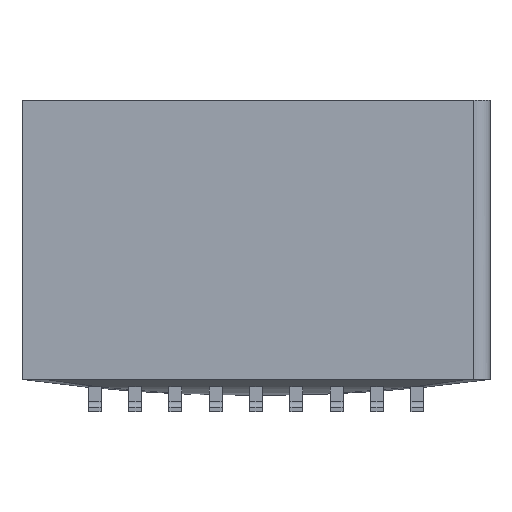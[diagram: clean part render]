
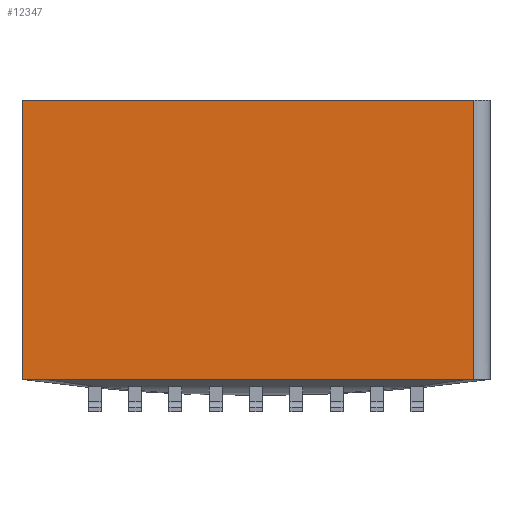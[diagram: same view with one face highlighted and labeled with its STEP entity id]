
A CAD part, front view. The second image highlights one B-rep face of the part: STEP entity #12347.
In plain terms, the highlighted planar face has unit normal (0, -1, 0).
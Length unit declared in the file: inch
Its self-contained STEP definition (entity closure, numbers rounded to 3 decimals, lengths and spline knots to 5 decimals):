
#8 = PLANE ( 'NONE',  #12403 ) ;
#554 = EDGE_CURVE ( 'NONE', #9514, #1584, #16755, .T. ) ;
#1131 = EDGE_CURVE ( 'NONE', #2764, #1584, #9415, .T. ) ;
#1363 = DIRECTION ( 'NONE',  ( 0., 0., -1. ) ) ;
#1584 = VERTEX_POINT ( 'NONE', #10406 ) ;
#1620 = DIRECTION ( 'NONE',  ( 0., 0., 1. ) ) ;
#1621 = EDGE_LOOP ( 'NONE', ( #15905, #13892, #14626, #7349 ) ) ;
#2764 = VERTEX_POINT ( 'NONE', #4311 ) ;
#2974 = CARTESIAN_POINT ( 'NONE',  ( -0.145, -0.035, -0.0865 ) ) ;
#3688 = VECTOR ( 'NONE', #7194, 39.37008 ) ;
#4311 = CARTESIAN_POINT ( 'NONE',  ( 0.135, -0.035, -0.0865 ) ) ;
#4916 = VERTEX_POINT ( 'NONE', #12287 ) ;
#6146 = CARTESIAN_POINT ( 'NONE',  ( 0.135, -0.035, 0.0865 ) ) ;
#6764 = CARTESIAN_POINT ( 'NONE',  ( -0.145, -0.035, 0.0865 ) ) ;
#7029 = EDGE_CURVE ( 'NONE', #2764, #4916, #14799, .T. ) ;
#7194 = DIRECTION ( 'NONE',  ( 1., 0., 0. ) ) ;
#7349 = ORIENTED_EDGE ( 'NONE', *, *, #554, .F. ) ;
#7498 = DIRECTION ( 'NONE',  ( -1., 0., 0. ) ) ;
#7918 = CARTESIAN_POINT ( 'NONE',  ( -0.47, -0.035, -0.0865 ) ) ;
#8450 = FACE_OUTER_BOUND ( 'NONE', #1621, .T. ) ;
#9005 = LINE ( 'NONE', #2974, #15546 ) ;
#9239 = DIRECTION ( 'NONE',  ( 0., -1., 0. ) ) ;
#9415 = LINE ( 'NONE', #6146, #12487 ) ;
#9514 = VERTEX_POINT ( 'NONE', #6764 ) ;
#10406 = CARTESIAN_POINT ( 'NONE',  ( 0.135, -0.035, 0.0865 ) ) ;
#10507 = VECTOR ( 'NONE', #7498, 39.37008 ) ;
#10643 = EDGE_CURVE ( 'NONE', #4916, #9514, #9005, .T. ) ;
#12287 = CARTESIAN_POINT ( 'NONE',  ( -0.145, -0.035, -0.0865 ) ) ;
#12347 = ADVANCED_FACE ( 'NONE', ( #8450 ), #8, .T. ) ;
#12403 = AXIS2_PLACEMENT_3D ( 'NONE', #7918, #9239, #1363 ) ;
#12487 = VECTOR ( 'NONE', #15321, 39.37008 ) ;
#13892 = ORIENTED_EDGE ( 'NONE', *, *, #7029, .F. ) ;
#14017 = CARTESIAN_POINT ( 'NONE',  ( -0.47, -0.035, -0.0865 ) ) ;
#14626 = ORIENTED_EDGE ( 'NONE', *, *, #1131, .T. ) ;
#14799 = LINE ( 'NONE', #14017, #10507 ) ;
#15321 = DIRECTION ( 'NONE',  ( 0., 0., 1. ) ) ;
#15546 = VECTOR ( 'NONE', #1620, 39.37008 ) ;
#15905 = ORIENTED_EDGE ( 'NONE', *, *, #10643, .F. ) ;
#16217 = CARTESIAN_POINT ( 'NONE',  ( -0.47, -0.035, 0.0865 ) ) ;
#16755 = LINE ( 'NONE', #16217, #3688 ) ;
